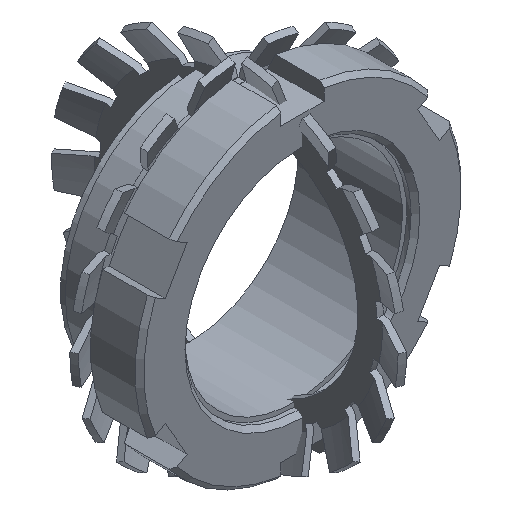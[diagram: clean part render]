
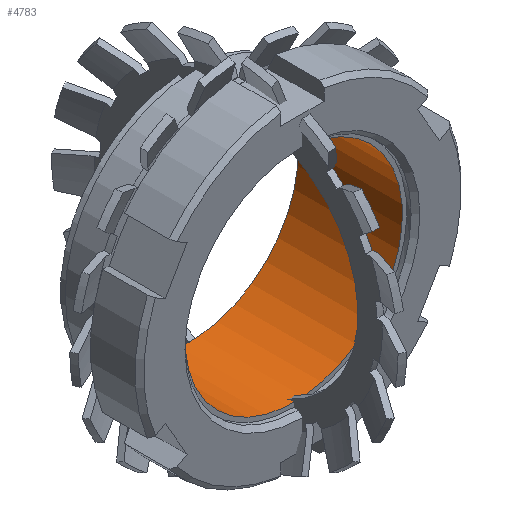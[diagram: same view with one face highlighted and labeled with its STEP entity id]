
A CAD part, isometric view. The second image highlights one B-rep face of the part: STEP entity #4783.
In plain terms, the highlighted cylindrical face has radius 25 mm (diameter 50 mm), a partial arc.
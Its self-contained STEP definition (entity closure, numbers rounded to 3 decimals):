
#4783 = ADVANCED_FACE( '', ( #6460 ), #6461, .F. );
#6460 = FACE_OUTER_BOUND( '', #6670, .T. );
#6461 = CYLINDRICAL_SURFACE( '', #6671, 25. );
#6670 = EDGE_LOOP( '', ( #7061, #7062, #7063, #7064 ) );
#6671 = AXIS2_PLACEMENT_3D( '', #7065, #7066, #7067 );
#7061 = ORIENTED_EDGE( '', *, *, #7413, .F. );
#7062 = ORIENTED_EDGE( '', *, *, #7414, .F. );
#7063 = ORIENTED_EDGE( '', *, *, #7415, .T. );
#7064 = ORIENTED_EDGE( '', *, *, #7416, .T. );
#7065 = CARTESIAN_POINT( '', ( 0., -60., 0. ) );
#7066 = DIRECTION( '', ( 0., 1., 0. ) );
#7067 = DIRECTION( '', ( 0., 0., -1. ) );
#7413 = EDGE_CURVE( '', #7605, #7606, #7607, .T. );
#7414 = EDGE_CURVE( '', #7608, #7605, #7609, .T. );
#7415 = EDGE_CURVE( '', #7608, #7610, #7611, .T. );
#7416 = EDGE_CURVE( '', #7610, #7606, #7612, .T. );
#7605 = VERTEX_POINT( '', #7963 );
#7606 = VERTEX_POINT( '', #7964 );
#7607 = LINE( '', #7965, #7966 );
#7608 = VERTEX_POINT( '', #7967 );
#7609 = CIRCLE( '', #7968, 25. );
#7610 = VERTEX_POINT( '', #7969 );
#7611 = LINE( '', #7970, #7971 );
#7612 = CIRCLE( '', #7972, 25. );
#7963 = CARTESIAN_POINT( '', ( 2.5, 11.25, 24.875 ) );
#7964 = CARTESIAN_POINT( '', ( 2.5, -12.75, 24.875 ) );
#7965 = CARTESIAN_POINT( '', ( 2.5, -60., 24.875 ) );
#7966 = VECTOR( '', #8139, 1000. );
#7967 = CARTESIAN_POINT( '', ( -2.5, 11.25, 24.875 ) );
#7968 = AXIS2_PLACEMENT_3D( '', #8140, #8141, #8142 );
#7969 = CARTESIAN_POINT( '', ( -2.5, -12.75, 24.875 ) );
#7970 = CARTESIAN_POINT( '', ( -2.5, -60., 24.875 ) );
#7971 = VECTOR( '', #8143, 1000. );
#7972 = AXIS2_PLACEMENT_3D( '', #8144, #8145, #8146 );
#8139 = DIRECTION( '', ( 0., -1., 0. ) );
#8140 = CARTESIAN_POINT( '', ( 0., 11.25, 0. ) );
#8141 = DIRECTION( '', ( 0., -1., 0. ) );
#8142 = DIRECTION( '', ( 0., 0., -1. ) );
#8143 = DIRECTION( '', ( 0., -1., 0. ) );
#8144 = CARTESIAN_POINT( '', ( 0., -12.75, 0. ) );
#8145 = DIRECTION( '', ( 0., -1., 0. ) );
#8146 = DIRECTION( '', ( 0., 0., -1. ) );
